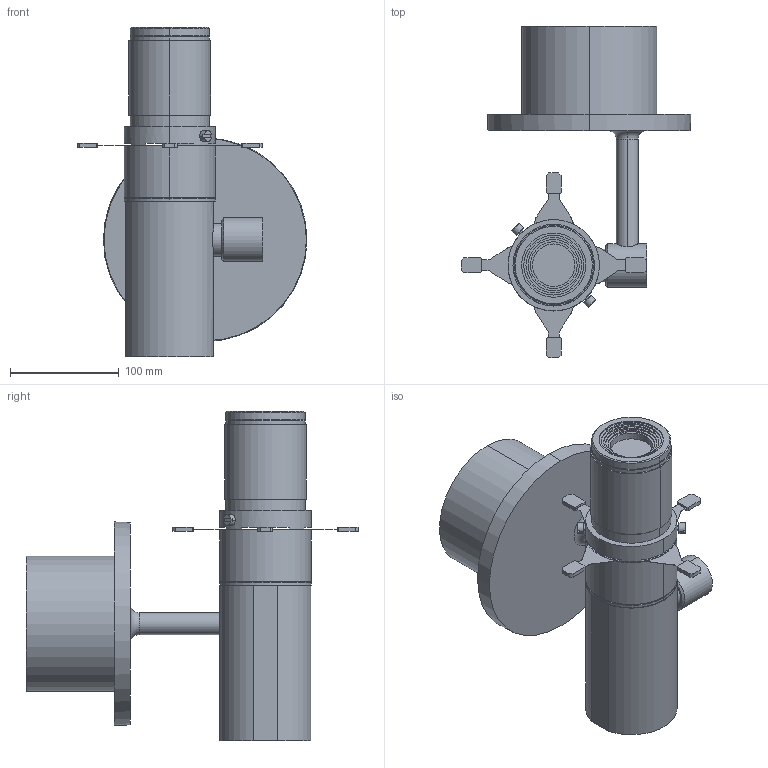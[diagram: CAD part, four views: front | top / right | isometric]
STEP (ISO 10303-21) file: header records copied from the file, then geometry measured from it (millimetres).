
FILE_DESCRIPTION (( 'STEP AP203' ), '1' );
FILE_NAME ('P1L (Monopoint_W)_Hanging+36D_10-06-2026.STEP', '2026-06-10T20:14:02', ( '' ), ( '' ), 'SwSTEP 2.0', 'SolidWorks 2014', '' );
FILE_SCHEMA (( 'CONFIG_CONTROL_DESIGN' ));
Length unit declared in the file: millimetre
Products named in the file (4): 36D_Fresnel Lens_P1L_W; Monopoint_W_Yoke+PSU; P1L (Monopoint_W)_Hanging+36D_10-06-2026; P1L - Light Body_W
Assembly tree (3 placements, depth 2):
  P1L (Monopoint_W)_Hanging+36D_10-06-2026
    Monopoint_W_Yoke+PSU
    P1L - Light Body_W
    36D_Fresnel Lens_P1L_W
Bounding box: 211.28 x 305.16 x 302.7 mm (x, y, z)
Volume: 2903632 mm3; surface area: 234122.5 mm2
Topology: 3 solids, 3 shells, 257 faces, 661 edges, 428 vertices
Faces by surface type: plane 156, cylinder 81, cone 18, torus 2
Entity records: 8463 total; most frequent: CARTESIAN_POINT 1602, DIRECTION 1393, ORIENTED_EDGE 1322, EDGE_CURVE 661, AXIS2_PLACEMENT_3D 479, VECTOR 435, LINE 435, VERTEX_POINT 428
